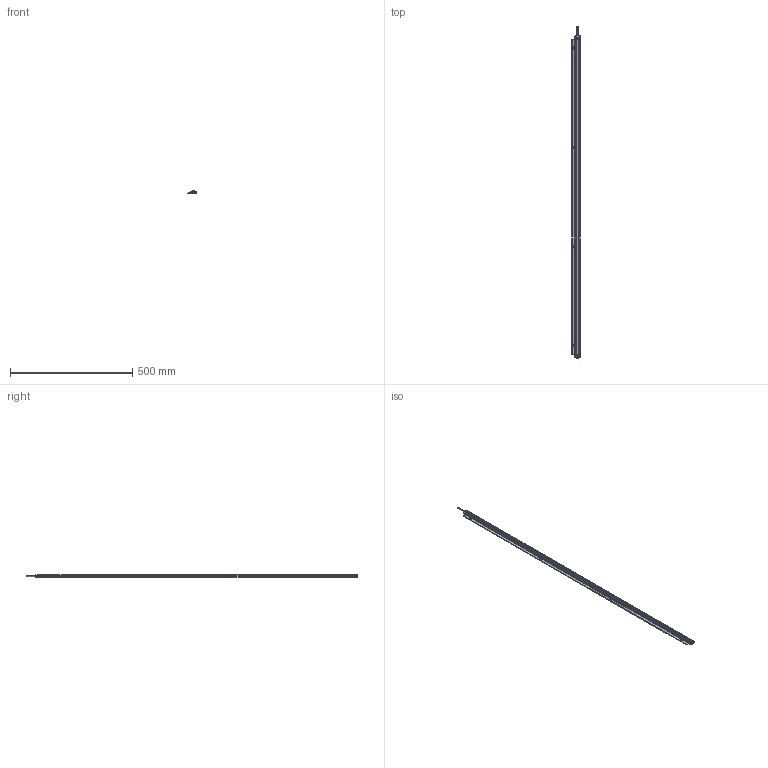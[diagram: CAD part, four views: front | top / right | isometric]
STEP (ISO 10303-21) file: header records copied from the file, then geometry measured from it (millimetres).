
FILE_DESCRIPTION (( 'STEP AP214' ), '1' );
FILE_NAME ('ILGA-L-K1-1320mm.STEP', '2026-04-24T23:07:09', ( '' ), ( '' ), 'SwSTEP 2.0', 'SolidWorks 2025', '' );
FILE_SCHEMA (( 'AUTOMOTIVE_DESIGN' ));
Length unit declared in the file: millimetre
Products named in the file (1): ILGA-L-K1-1320mm
Bounding box: 35 x 1360 x 10.7 mm (x, y, z)
Volume: 137557.6 mm3; surface area: 203602.5 mm2
Topology: 9 solids, 9 shells, 680 faces, 1768 edges, 1080 vertices
Faces by surface type: plane 293, cylinder 245, cone 60, torus 42, bspline 24, sphere 16
Entity records: 28575 total; most frequent: CARTESIAN_POINT 4429, DIRECTION 3606, ORIENTED_EDGE 3448, EDGE_CURVE 1724, AXIS2_PLACEMENT_3D 1345, VERTEX_POINT 1080, LINE 916, VECTOR 916
